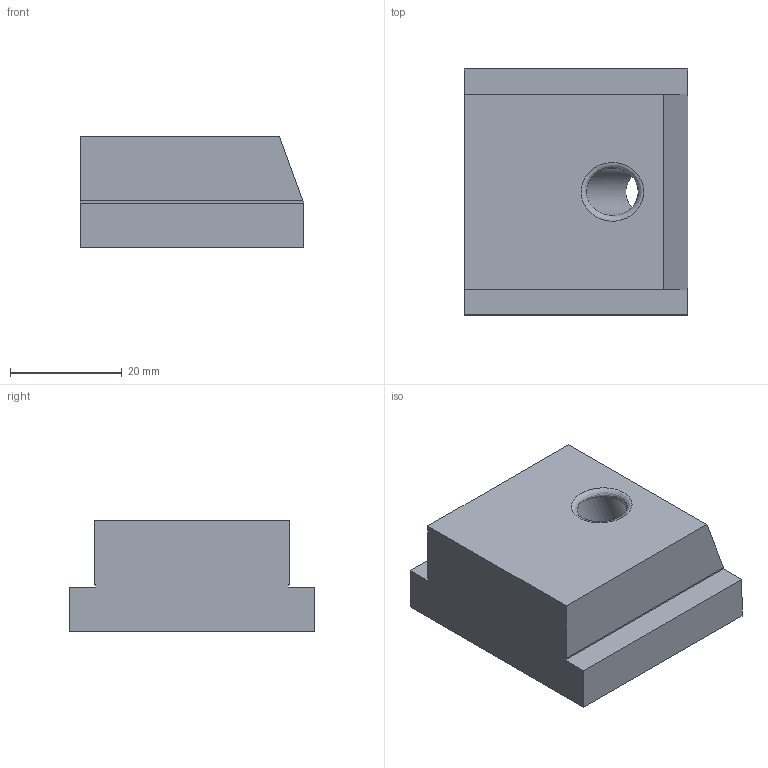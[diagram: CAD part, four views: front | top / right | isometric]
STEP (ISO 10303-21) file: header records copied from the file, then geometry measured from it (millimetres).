
FILE_DESCRIPTION (( 'STEP AP214' ), '1' );
FILE_NAME ('Schieber_-_H20 B35 L40.step', '2024-01-15T11:27:23', ( '' ), ( '' ), 'SwSTEP 2.0', 'SolidWorks 2020', '' );
FILE_SCHEMA (( 'AUTOMOTIVE_DESIGN' ));
Length unit declared in the file: millimetre
Products named in the file (1): Schieber_-_H20 B35 L40
Bounding box: 40 x 44 x 20 mm (x, y, z)
Volume: 28733.4 mm3; surface area: 6969.3 mm2
Topology: 1 solids, 1 shells, 209 faces, 558 edges, 371 vertices
Faces by surface type: plane 116, bspline 92, cylinder 1
Full cylindrical faces by diameter (mm): 8.5 x1
Entity records: 11372 total; most frequent: CARTESIAN_POINT 6763, ORIENTED_EDGE 1112, DIRECTION 607, EDGE_CURVE 556, VECTOR 371, VERTEX_POINT 371, LINE 371, EDGE_LOOP 233
